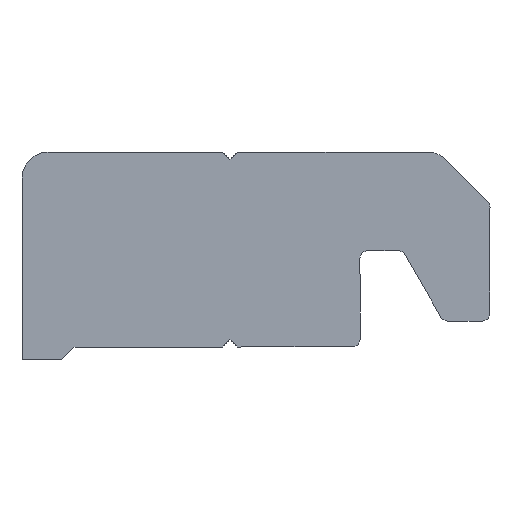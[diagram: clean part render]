
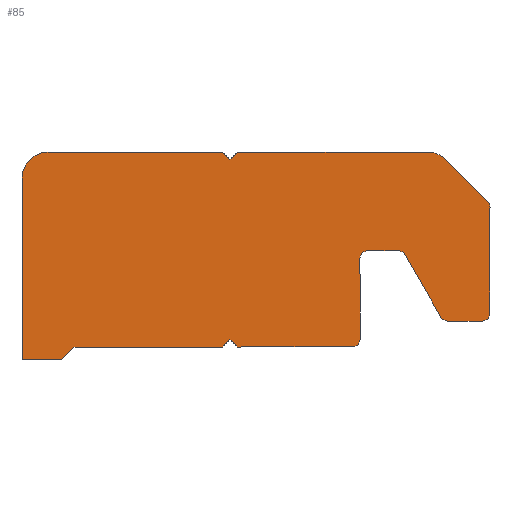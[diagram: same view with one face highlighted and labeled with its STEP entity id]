
A CAD part, front view. The second image highlights one B-rep face of the part: STEP entity #85.
In plain terms, the highlighted planar face has unit normal (0, -1, 0).
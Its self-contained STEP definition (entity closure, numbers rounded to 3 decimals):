
#85=ADVANCED_FACE('',(#185),#186,.T.);
#185=FACE_OUTER_BOUND('',#300,.T.);
#186=PLANE('',#301);
#300=EDGE_LOOP('',(#474,#475,#476,#477,#478,#479,#480,#481,#482,#483,#484,#485,#486,#487,#488,#489,#490,#491,#492,#493,#494,#495,#496,#497,#498,#499));
#301=AXIS2_PLACEMENT_3D('',#500,#501,#502);
#474=ORIENTED_EDGE('',*,*,#748,.T.);
#475=ORIENTED_EDGE('',*,*,#726,.T.);
#476=ORIENTED_EDGE('',*,*,#708,.T.);
#477=ORIENTED_EDGE('',*,*,#731,.T.);
#478=ORIENTED_EDGE('',*,*,#764,.T.);
#479=ORIENTED_EDGE('',*,*,#762,.T.);
#480=ORIENTED_EDGE('',*,*,#765,.T.);
#481=ORIENTED_EDGE('',*,*,#766,.T.);
#482=ORIENTED_EDGE('',*,*,#767,.T.);
#483=ORIENTED_EDGE('',*,*,#722,.T.);
#484=ORIENTED_EDGE('',*,*,#713,.T.);
#485=ORIENTED_EDGE('',*,*,#757,.T.);
#486=ORIENTED_EDGE('',*,*,#739,.T.);
#487=ORIENTED_EDGE('',*,*,#768,.T.);
#488=ORIENTED_EDGE('',*,*,#718,.T.);
#489=ORIENTED_EDGE('',*,*,#735,.T.);
#490=ORIENTED_EDGE('',*,*,#769,.T.);
#491=ORIENTED_EDGE('',*,*,#770,.T.);
#492=ORIENTED_EDGE('',*,*,#771,.T.);
#493=ORIENTED_EDGE('',*,*,#744,.T.);
#494=ORIENTED_EDGE('',*,*,#772,.T.);
#495=ORIENTED_EDGE('',*,*,#773,.T.);
#496=ORIENTED_EDGE('',*,*,#774,.T.);
#497=ORIENTED_EDGE('',*,*,#775,.T.);
#498=ORIENTED_EDGE('',*,*,#776,.T.);
#499=ORIENTED_EDGE('',*,*,#777,.T.);
#500=CARTESIAN_POINT('',(-7.,-9.5,7.0));
#501=DIRECTION('',(0.0,-1.0,0.0));
#502=DIRECTION('',(1.0,0.0,0.0));
#708=EDGE_CURVE('',#844,#842,#845,.T.);
#713=EDGE_CURVE('',#853,#851,#854,.T.);
#718=EDGE_CURVE('',#862,#860,#863,.T.);
#722=EDGE_CURVE('',#868,#853,#869,.T.);
#726=EDGE_CURVE('',#874,#844,#875,.T.);
#731=EDGE_CURVE('',#842,#880,#882,.T.);
#735=EDGE_CURVE('',#860,#886,#888,.T.);
#739=EDGE_CURVE('',#895,#893,#896,.T.);
#744=EDGE_CURVE('',#904,#902,#905,.T.);
#748=EDGE_CURVE('',#910,#874,#911,.T.);
#757=EDGE_CURVE('',#851,#895,#924,.T.);
#762=EDGE_CURVE('',#926,#931,#933,.T.);
#764=EDGE_CURVE('',#880,#926,#935,.T.);
#765=EDGE_CURVE('',#931,#936,#937,.T.);
#766=EDGE_CURVE('',#936,#938,#939,.T.);
#767=EDGE_CURVE('',#938,#868,#940,.T.);
#768=EDGE_CURVE('',#893,#862,#941,.T.);
#769=EDGE_CURVE('',#886,#942,#943,.T.);
#770=EDGE_CURVE('',#942,#944,#945,.T.);
#771=EDGE_CURVE('',#944,#904,#946,.T.);
#772=EDGE_CURVE('',#902,#947,#948,.T.);
#773=EDGE_CURVE('',#947,#949,#950,.T.);
#774=EDGE_CURVE('',#949,#951,#952,.T.);
#775=EDGE_CURVE('',#951,#953,#954,.T.);
#776=EDGE_CURVE('',#953,#955,#956,.T.);
#777=EDGE_CURVE('',#955,#910,#957,.T.);
#842=VERTEX_POINT('',#1042);
#844=VERTEX_POINT('',#1045);
#845=LINE('',#1046,#1047);
#851=VERTEX_POINT('',#1055);
#853=VERTEX_POINT('',#1058);
#854=LINE('',#1059,#1060);
#860=VERTEX_POINT('',#1068);
#862=VERTEX_POINT('',#1071);
#863=LINE('',#1072,#1073);
#868=VERTEX_POINT('',#1079);
#869=CIRCLE('',#1080,0.3);
#874=VERTEX_POINT('',#1087);
#875=LINE('',#1088,#1089);
#880=VERTEX_POINT('',#1096);
#882=LINE('',#1099,#1100);
#886=VERTEX_POINT('',#1104);
#888=CIRCLE('',#1107,0.3);
#893=VERTEX_POINT('',#1113);
#895=VERTEX_POINT('',#1116);
#896=LINE('',#1117,#1118);
#902=VERTEX_POINT('',#1125);
#904=VERTEX_POINT('',#1128);
#905=CIRCLE('',#1129,0.3);
#910=VERTEX_POINT('',#1135);
#911=CIRCLE('',#1136,1.0);
#924=CIRCLE('',#1153,0.3);
#926=VERTEX_POINT('',#1155);
#931=VERTEX_POINT('',#1161);
#933=LINE('',#1164,#1165);
#935=LINE('',#1167,#1168);
#936=VERTEX_POINT('',#1169);
#937=LINE('',#1170,#1171);
#938=VERTEX_POINT('',#1172);
#939=LINE('',#1173,#1174);
#940=LINE('',#1175,#1176);
#941=CIRCLE('',#1177,0.3);
#942=VERTEX_POINT('',#1178);
#943=LINE('',#1179,#1180);
#944=VERTEX_POINT('',#1181);
#945=CIRCLE('',#1182,0.3);
#946=LINE('',#1183,#1184);
#947=VERTEX_POINT('',#1185);
#948=LINE('',#1186,#1187);
#949=VERTEX_POINT('',#1188);
#950=CIRCLE('',#1189,1.);
#951=VERTEX_POINT('',#1190);
#952=LINE('',#1191,#1192);
#953=VERTEX_POINT('',#1193);
#954=LINE('',#1194,#1195);
#955=VERTEX_POINT('',#1196);
#956=LINE('',#1197,#1198);
#957=LINE('',#1199,#1200);
#1042=CARTESIAN_POINT('',(-6.5,-9.5,0.0));
#1045=CARTESIAN_POINT('',(-8.,-9.5,0.0));
#1046=CARTESIAN_POINT('',(-8.,-9.5,0.0));
#1047=VECTOR('',#1306,1.0);
#1055=CARTESIAN_POINT('',(5.,-9.5,3.9));
#1058=CARTESIAN_POINT('',(5.,-9.5,0.8));
#1059=CARTESIAN_POINT('',(5.,-9.5,0.8));
#1060=VECTOR('',#1310,1.0);
#1068=CARTESIAN_POINT('',(8.113,-9.5,1.65));
#1071=CARTESIAN_POINT('',(6.728,-9.5,4.05));
#1072=CARTESIAN_POINT('',(6.728,-9.5,4.05));
#1073=VECTOR('',#1314,1.0);
#1079=CARTESIAN_POINT('',(4.702,-9.5,0.5));
#1080=AXIS2_PLACEMENT_3D('',#1319,#1320,#1321);
#1087=CARTESIAN_POINT('',(-8.,-9.5,7.0));
#1088=CARTESIAN_POINT('',(-8.,-9.5,7.0));
#1089=VECTOR('',#1324,1.0);
#1096=CARTESIAN_POINT('',(-6.,-9.5,0.5));
#1099=CARTESIAN_POINT('',(-6.5,-9.5,0.0));
#1100=VECTOR('',#1328,1.0);
#1104=CARTESIAN_POINT('',(8.373,-9.5,1.5));
#1107=AXIS2_PLACEMENT_3D('',#1333,#1334,#1335);
#1113=CARTESIAN_POINT('',(6.468,-9.5,4.2));
#1116=CARTESIAN_POINT('',(5.3,-9.5,4.2));
#1117=CARTESIAN_POINT('',(5.3,-9.5,4.2));
#1118=VECTOR('',#1338,1.0);
#1125=CARTESIAN_POINT('',(9.912,-9.5,6.088));
#1128=CARTESIAN_POINT('',(10.,-9.5,5.876));
#1129=AXIS2_PLACEMENT_3D('',#1344,#1345,#1346);
#1135=CARTESIAN_POINT('',(-7.,-9.5,8.0));
#1136=AXIS2_PLACEMENT_3D('',#1351,#1352,#1353);
#1153=AXIS2_PLACEMENT_3D('',#1364,#1365,#1366);
#1155=CARTESIAN_POINT('',(-0.3,-9.5,0.5));
#1161=CARTESIAN_POINT('',(0.,-9.5,0.8));
#1164=CARTESIAN_POINT('',(-0.3,-9.5,0.5));
#1165=VECTOR('',#1372,1.0);
#1167=CARTESIAN_POINT('',(-6.,-9.5,0.5));
#1168=VECTOR('',#1373,1.0);
#1169=CARTESIAN_POINT('',(0.3,-9.5,0.5));
#1170=CARTESIAN_POINT('',(0.,-9.5,0.8));
#1171=VECTOR('',#1374,1.0);
#1172=CARTESIAN_POINT('',(4.7,-9.5,0.5));
#1173=CARTESIAN_POINT('',(0.3,-9.5,0.5));
#1174=VECTOR('',#1375,1.0);
#1175=CARTESIAN_POINT('',(4.7,-9.5,0.5));
#1176=VECTOR('',#1376,1.0);
#1177=AXIS2_PLACEMENT_3D('',#1377,#1378,#1379);
#1178=CARTESIAN_POINT('',(9.7,-9.5,1.5));
#1179=CARTESIAN_POINT('',(8.373,-9.5,1.5));
#1180=VECTOR('',#1380,1.0);
#1181=CARTESIAN_POINT('',(10.,-9.5,1.8));
#1182=AXIS2_PLACEMENT_3D('',#1381,#1382,#1383);
#1183=CARTESIAN_POINT('',(10.,-9.5,1.8));
#1184=VECTOR('',#1384,1.0);
#1185=CARTESIAN_POINT('',(8.293,-9.5,7.707));
#1186=CARTESIAN_POINT('',(9.912,-9.5,6.088));
#1187=VECTOR('',#1385,1.0);
#1188=CARTESIAN_POINT('',(7.586,-9.5,8.0));
#1189=AXIS2_PLACEMENT_3D('',#1386,#1387,#1388);
#1190=CARTESIAN_POINT('',(0.3,-9.5,8.0));
#1191=CARTESIAN_POINT('',(7.586,-9.5,8.0));
#1192=VECTOR('',#1389,1.0);
#1193=CARTESIAN_POINT('',(0.,-9.5,7.7));
#1194=CARTESIAN_POINT('',(0.3,-9.5,8.0));
#1195=VECTOR('',#1390,1.0);
#1196=CARTESIAN_POINT('',(-0.3,-9.5,8.0));
#1197=CARTESIAN_POINT('',(0.,-9.5,7.7));
#1198=VECTOR('',#1391,1.0);
#1199=CARTESIAN_POINT('',(-0.3,-9.5,8.0));
#1200=VECTOR('',#1392,1.0);
#1306=DIRECTION('',(1.0,0.0,0.0));
#1310=DIRECTION('',(0.,0.0,1.0));
#1314=DIRECTION('',(0.5,0.0,-0.866));
#1319=CARTESIAN_POINT('',(4.7,-9.5,0.8));
#1320=DIRECTION('',(0.0,-1.0,0.0));
#1321=DIRECTION('',(1.0,0.0,0.0));
#1324=DIRECTION('',(0.0,0.0,-1.0));
#1328=DIRECTION('',(0.707,0.0,0.707));
#1333=CARTESIAN_POINT('',(8.373,-9.5,1.8));
#1334=DIRECTION('',(0.0,-1.0,0.0));
#1335=DIRECTION('',(1.0,0.0,0.0));
#1338=DIRECTION('',(1.0,0.0,0.));
#1344=CARTESIAN_POINT('',(9.7,-9.5,5.876));
#1345=DIRECTION('',(0.0,-1.0,0.0));
#1346=DIRECTION('',(1.0,0.0,0.0));
#1351=CARTESIAN_POINT('',(-7.,-9.5,7.0));
#1352=DIRECTION('',(0.0,-1.0,0.0));
#1353=DIRECTION('',(1.0,0.0,0.0));
#1364=CARTESIAN_POINT('',(5.3,-9.5,3.9));
#1365=DIRECTION('',(0.0,1.0,0.0));
#1366=DIRECTION('',(-1.0,0.0,0.0));
#1372=DIRECTION('',(0.707,0.0,0.707));
#1373=DIRECTION('',(1.0,0.0,0.0));
#1374=DIRECTION('',(0.707,0.0,-0.707));
#1375=DIRECTION('',(1.0,0.0,0.));
#1376=DIRECTION('',(1.,0.0,0.004));
#1377=CARTESIAN_POINT('',(6.468,-9.5,3.9));
#1378=DIRECTION('',(0.0,1.0,0.0));
#1379=DIRECTION('',(-1.0,0.0,0.0));
#1380=DIRECTION('',(1.0,0.0,0.));
#1381=CARTESIAN_POINT('',(9.7,-9.5,1.8));
#1382=DIRECTION('',(0.0,-1.0,0.0));
#1383=DIRECTION('',(1.0,0.0,0.0));
#1384=DIRECTION('',(0.,0.0,1.0));
#1385=DIRECTION('',(-0.707,0.0,0.707));
#1386=CARTESIAN_POINT('',(7.586,-9.5,7.0));
#1387=DIRECTION('',(0.0,-1.0,0.0));
#1388=DIRECTION('',(1.0,0.0,0.0));
#1389=DIRECTION('',(-1.0,0.0,0.0));
#1390=DIRECTION('',(-0.707,0.0,-0.707));
#1391=DIRECTION('',(-0.707,0.0,0.707));
#1392=DIRECTION('',(-1.0,0.0,0.0));
